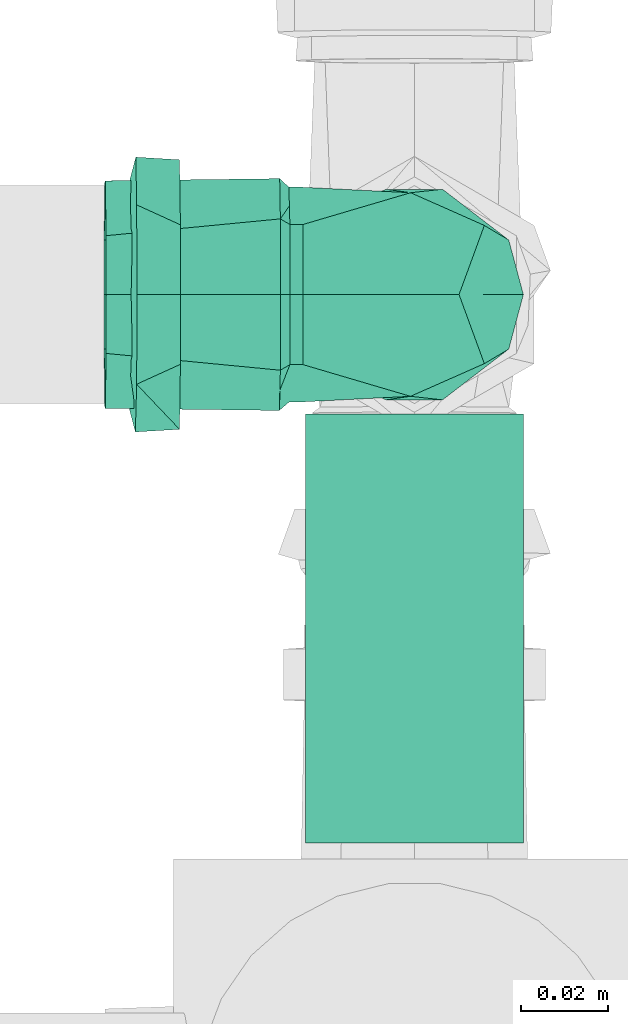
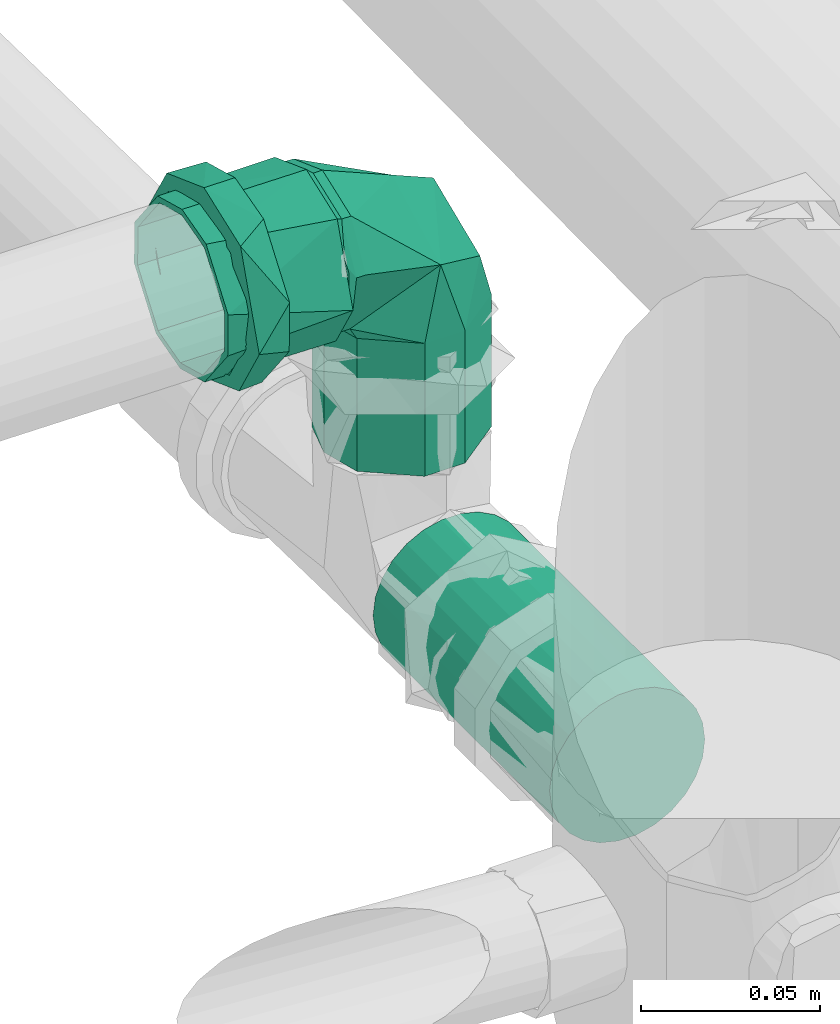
# One storey, part 214 of 589: 1 flow fitting, 1 flow segment.
"""IFC2X3 building model written with IfcOpenShell, lengths in millimetres."""

import ifcopenshell
import ifcopenshell.guid

model = None  # the IFC model being written
_history = None  # IfcOwnerHistory: only IFC2X3 demands one
_inside = {}  # id of a spatial element -> (the spatial element, [elements in it])
_under = {}  # id of a project, library or spatial element -> (it, [spatial elements below it])
_declared = {}  # id of a project -> (the project, [libraries it declares])
_typed = {}  # id of a type object -> (the type object, [elements of that type])
_made_of = {}  # id of a material, layer set ... -> (it, [elements and type objects made of it])


def new_model(schema):
    """Start an empty IFC model of exactly this schema.

    Asked for "IFC4X3", IfcOpenShell would pick the latest addendum, in which some entities
    have other attributes; the version numbers below select the first issue.
    IFC2X3 requires an IfcOwnerHistory on every rooted entity: one is made here for all.
    """
    global model, _history
    if schema == "IFC4X3":
        model = ifcopenshell.file(schema_version=(4, 3, 0, 0))
    else:
        model = ifcopenshell.file(schema=schema)
    _inside.clear()
    _under.clear()
    _declared.clear()
    _typed.clear()
    _made_of.clear()
    _history = None
    if model.schema == "IFC2X3":
        org = make("IfcOrganization", Name="unknown")
        user = make(
            "IfcPersonAndOrganization",
            ThePerson=make("IfcPerson", FamilyName="unknown"),
            TheOrganization=org,
        )
        app = make(
            "IfcApplication",
            ApplicationDeveloper=org,
            Version="unknown",
            ApplicationFullName="unknown",
            ApplicationIdentifier="unknown",
        )
        _history = make(
            "IfcOwnerHistory",
            OwningUser=user,
            OwningApplication=app,
            ChangeAction="ADDED",
            CreationDate=0,
        )
    return model


def make(cls, **values):
    """One entity of the class cls with the attributes given. An attribute that is None is left unset."""
    return model.create_entity(
        cls, **{name: value for name, value in values.items() if value is not None}
    )


def entity(cls, *values):
    """Any entity or typed value of the class cls, its attributes in the order of the schema. None: left unset."""
    e = model.create_entity(cls)
    for i, value in enumerate(values):
        if value is not None:
            e[i] = value
    return e


def rooted(cls, **values):
    """An entity with a GlobalId (a new one), such as an element, a storey or a relation."""
    return make(cls, GlobalId=ifcopenshell.guid.new(), OwnerHistory=_history, **values)


def si_unit(unit_type, name, prefix=None):
    """IfcSIUnit, for example si_unit("LENGTHUNIT", "METRE", prefix="MILLI")."""
    return make("IfcSIUnit", UnitType=unit_type, Prefix=prefix, Name=name)


def converted_unit(unit_type, name, factor, base, dimensions=None, offset=None):
    """IfcConversionBasedUnit, such as the inch: factor (a typed value) times the base unit."""
    return make(
        "IfcConversionBasedUnit"
        if offset is None
        else "IfcConversionBasedUnitWithOffset",
        ConversionOffset=offset,
        Dimensions=None
        if dimensions is None
        else entity("IfcDimensionalExponents", *dimensions),
        UnitType=unit_type,
        Name=name,
        ConversionFactor=make(
            "IfcMeasureWithUnit", ValueComponent=factor, UnitComponent=base
        ),
    )


def derived_unit(unit_type, elements):
    """IfcDerivedUnit: a product of units, each with its exponent."""
    return make(
        "IfcDerivedUnit",
        Elements=[
            make("IfcDerivedUnitElement", Unit=unit, Exponent=power)
            for unit, power in elements
        ],
        UnitType=unit_type,
    )


def assignment(units):
    """IfcUnitAssignment: the units of a project."""
    return None if units is None else make("IfcUnitAssignment", Units=units)


def point(xyz):
    """IfcCartesianPoint."""
    return None if xyz is None else make("IfcCartesianPoint", Coordinates=xyz)


def direction(xyz):
    """IfcDirection."""
    return None if xyz is None else make("IfcDirection", DirectionRatios=xyz)


def frame(location, z_axis=None, x_axis=None):
    """IfcAxis2Placement3D, a coordinate frame: its origin and axes. An axis left out is left unset."""
    return make(
        "IfcAxis2Placement3D",
        Location=point(location),
        Axis=direction(z_axis),
        RefDirection=direction(x_axis),
    )


def frame_2d(location, x_axis=None):
    """IfcAxis2Placement2D, a coordinate frame in the plane: its origin and x axis."""
    return make(
        "IfcAxis2Placement2D", Location=point(location), RefDirection=direction(x_axis)
    )


def origin():
    """The frame at (0, 0, 0) with its axes left unset."""
    return frame((0.0, 0.0, 0.0))


def place(relative_to, where):
    """IfcLocalPlacement: puts the frame where relative to a parent placement (None: the world)."""
    return make(
        "IfcLocalPlacement", PlacementRelTo=relative_to, RelativePlacement=where
    )


def context(
    kind, dimensions, precision=None, world=None, true_north=None, identifier=None
):
    """IfcGeometricRepresentationContext, for example the 3D "Model" context."""
    return make(
        "IfcGeometricRepresentationContext",
        ContextIdentifier=identifier,
        ContextType=kind,
        CoordinateSpaceDimension=dimensions,
        Precision=precision,
        WorldCoordinateSystem=world,
        TrueNorth=true_north,
    )


def subcontext(parent, identifier, kind, view, scale=None):
    """IfcGeometricRepresentationSubContext, for example "Body" below "Model"."""
    return make(
        "IfcGeometricRepresentationSubContext",
        ContextIdentifier=identifier,
        ContextType=kind,
        ParentContext=parent,
        TargetScale=scale,
        TargetView=view,
    )


def project(units=None, contexts=None):
    """IfcProject with its units and contexts."""
    return rooted(
        "IfcProject",
        Name="project",
        RepresentationContexts=contexts,
        UnitsInContext=assignment(units),
    )


def spatial(cls, under=None, at=None, **own):
    """A site, building, storey or space (cls), placed at a placement, below another one or the project."""
    s = rooted(cls, ObjectPlacement=at, **own)
    if under is not None:
        _under.setdefault(under.id(), (under, []))[1].append(s)
    return s


def profile(cls, at=None, kind="AREA", **sizes):
    """A parametric profile (cls). Its sizes go by their IFC names, for example OverallWidth=200.0."""
    return make(cls, ProfileType=kind, Position=at, **sizes)


def circle(**sizes):
    """IfcCircleProfileDef."""
    return profile("IfcCircleProfileDef", **sizes)


def extrude(swept, where, along, depth):
    """IfcExtrudedAreaSolid: the profile swept, set in the frame where, extruded along a direction by depth."""
    return make(
        "IfcExtrudedAreaSolid",
        SweptArea=swept,
        Position=where,
        ExtrudedDirection=direction(along),
        Depth=depth,
    )


def faces_of(points, faces, orient=None, outer=None):
    """IfcFace entities. A face is a list of loops; a loop is a list of indices into points, from 0.

    orient and outer hold one flag for each loop. By default every Orientation is true, the
    first loop of a face is its IfcFaceOuterBound and the others are IfcFaceBound.
    """
    made = []
    for i, loops in enumerate(faces):
        bounds = []
        for j, loop in enumerate(loops):
            is_outer = j == 0 if outer is None else outer[i][j]
            bounds.append(
                make(
                    "IfcFaceOuterBound" if is_outer else "IfcFaceBound",
                    Bound=make("IfcPolyLoop", Polygon=[points[k] for k in loop]),
                    Orientation=True if orient is None else orient[i][j],
                )
            )
        made.append(make("IfcFace", Bounds=bounds))
    return made


def faceted_brep(points, faces, orient=None, outer=None, voids=None):
    """IfcFacetedBrep: a solid bounded by flat faces; with voids (closed shells), ...WithVoids."""
    shared = [point(p) for p in points]
    hull = make("IfcClosedShell", CfsFaces=faces_of(shared, faces, orient, outer))
    if voids is None:
        return make("IfcFacetedBrep", Outer=hull)
    return make(
        "IfcFacetedBrepWithVoids",
        Outer=hull,
        Voids=[
            make(cls, CfsFaces=faces_of(shared, fs, o, b)) for cls, fs, o, b in voids
        ],
    )


def shape(context_of_items, identifier, shape_type, items):
    """IfcShapeRepresentation: the items that make up one representation, for example the "Body"."""
    return make(
        "IfcShapeRepresentation",
        ContextOfItems=context_of_items,
        RepresentationIdentifier=identifier,
        RepresentationType=shape_type,
        Items=items,
    )


def source(mapping_origin, context_of_items, identifier, shape_type, items):
    """IfcRepresentationMap: a shape defined once, which mapped items show again and again."""
    return make(
        "IfcRepresentationMap",
        MappingOrigin=mapping_origin,
        MappedRepresentation=shape(context_of_items, identifier, shape_type, items),
    )


def transform(
    local_origin,
    x_axis=None,
    y_axis=None,
    z_axis=None,
    scale=None,
    scale2=None,
    scale3=None,
    uniform=True,
):
    """IfcCartesianTransformationOperator3D, or its non-uniform kind. x_axis, y_axis, z_axis: its Axis1, 2, 3."""
    if uniform:
        return make(
            "IfcCartesianTransformationOperator3D",
            Axis1=direction(x_axis),
            Axis2=direction(y_axis),
            LocalOrigin=point(local_origin),
            Scale=scale,
            Axis3=direction(z_axis),
        )
    return make(
        "IfcCartesianTransformationOperator3DnonUniform",
        Axis1=direction(x_axis),
        Axis2=direction(y_axis),
        LocalOrigin=point(local_origin),
        Scale=scale,
        Axis3=direction(z_axis),
        Scale2=scale2,
        Scale3=scale3,
    )


def mapped(mapping_source, mapping_target):
    """IfcMappedItem: shows the shape of a source again, moved by a transform."""
    return make(
        "IfcMappedItem", MappingSource=mapping_source, MappingTarget=mapping_target
    )


def material(Name=None, Category=None):
    """IfcMaterial."""
    return make("IfcMaterial", Name=Name, Category=Category)


def made_of(thing, what):
    """Note that an element or type object is made of a material, layer set ...; save() writes the relation."""
    if what is not None:
        _made_of.setdefault(what.id(), (what, []))[1].append(thing)
    return thing


def type_object(cls, material=None, **own):
    """A type object (cls), such as IfcWallType, which elements share."""
    return made_of(rooted(cls, **own), material)


def type_shapes(of_type, sources):
    """Give a type object the sources (RepresentationMaps) that its elements show as mapped items."""
    of_type.RepresentationMaps = sources


def element(
    cls,
    number,
    at=None,
    inside=None,
    cuts=None,
    type_object=None,
    material=None,
    context=None,
    identifier="Body",
    shape_type=None,
    held_by="IfcProductDefinitionShape",
    body=None,
    shapes=None,
    **own,
):
    """One element of the class cls, such as IfcWall. Its Tag is "e" and its number.

    at: its placement. inside: the storey or other place that contains it. cuts: it is an
    opening in that element (IfcRelVoidsElement). A single representation is given by context,
    identifier, shape_type and body (its items); several are given by shapes. held_by: the class
    of the entity that holds the representations. save() writes the other relations.
    """
    e = rooted(cls, Tag="e%d" % number, ObjectPlacement=at, **own)
    if body is not None:
        shapes = [shape(context, identifier, shape_type, body)]
    if shapes is not None:
        e.Representation = make(held_by, Representations=shapes)
    if inside is not None:
        _inside.setdefault(inside.id(), (inside, []))[1].append(e)
    if cuts is not None:
        rooted(
            "IfcRelVoidsElement", RelatingBuildingElement=cuts, RelatedOpeningElement=e
        )
    if type_object is not None:
        _typed.setdefault(type_object.id(), (type_object, []))[1].append(e)
    return made_of(e, material)


def aggregate(whole, parts):
    """IfcRelAggregates: a whole, such as a stair, and the parts it consists of."""
    return rooted("IfcRelAggregates", RelatingObject=whole, RelatedObjects=parts)


def save(model, path):
    """Write the relations noted so far, then the file.

    IfcRelAggregates (storeys below a building ...), IfcRelContainedInSpatialStructure (elements
    in a storey), IfcRelDefinesByType, IfcRelAssociatesMaterial and IfcRelDeclares: one each for
    every whole, place, type object, material and project.
    """
    for whole, parts in _under.values():
        aggregate(whole, parts)
    for where, things in _inside.values():
        rooted(
            "IfcRelContainedInSpatialStructure",
            RelatedElements=things,
            RelatingStructure=where,
        )
    for kind, things in _typed.values():
        rooted("IfcRelDefinesByType", RelatedObjects=things, RelatingType=kind)
    for what, things in _made_of.values():
        rooted("IfcRelAssociatesMaterial", RelatedObjects=things, RelatingMaterial=what)
    for by, libraries in _declared.values():
        rooted("IfcRelDeclares", RelatingContext=by, RelatedDefinitions=libraries)
    model.write(path)


model = new_model("IFC2X3")

# Units and contexts
model_context = context("Model", 3, precision=0.01, world=origin(), true_north=direction((6.123031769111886e-17, 1.0)))
body_context = subcontext(model_context, "Body", "Model", "MODEL_VIEW")
ifc_project = project(units=[si_unit("LENGTHUNIT", "METRE", prefix="MILLI"), si_unit("AREAUNIT", "SQUARE_METRE"), si_unit("VOLUMEUNIT", "CUBIC_METRE"), converted_unit("PLANEANGLEUNIT", "DEGREE", entity("IfcRatioMeasure", 0.017453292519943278), si_unit("PLANEANGLEUNIT", "RADIAN"), dimensions=[0, 0, 0, 0, 0, 0, 0]), si_unit("MASSUNIT", "GRAM", prefix="KILO"), derived_unit("MASSDENSITYUNIT", [(si_unit("MASSUNIT", "GRAM", prefix="KILO"), 1), (si_unit("LENGTHUNIT", "METRE"), -3)]), derived_unit("IONCONCENTRATIONUNIT", [(si_unit("MASSUNIT", "GRAM", prefix="KILO"), 1), (si_unit("LENGTHUNIT", "METRE"), -3)]), derived_unit("MOMENTOFINERTIAUNIT", [(si_unit("LENGTHUNIT", "METRE"), 4)]), si_unit("TIMEUNIT", "SECOND"), si_unit("FREQUENCYUNIT", "HERTZ"), si_unit("THERMODYNAMICTEMPERATUREUNIT", "DEGREE_CELSIUS"), derived_unit("THERMALTRANSMITTANCEUNIT", [(si_unit("MASSUNIT", "GRAM", prefix="KILO"), 1), (si_unit("THERMODYNAMICTEMPERATUREUNIT", "KELVIN"), -1), (si_unit("TIMEUNIT", "SECOND"), -3)]), derived_unit("THERMALCONDUCTANCEUNIT", [(si_unit("MASSUNIT", "GRAM", prefix="KILO"), 1), (si_unit("THERMODYNAMICTEMPERATUREUNIT", "KELVIN"), -1), (si_unit("TIMEUNIT", "SECOND"), -3), (si_unit("LENGTHUNIT", "METRE"), 1)]), derived_unit("VOLUMETRICFLOWRATEUNIT", [(si_unit("LENGTHUNIT", "METRE"), 3), (si_unit("TIMEUNIT", "SECOND"), -1)]), derived_unit("MASSFLOWRATEUNIT", [(si_unit("MASSUNIT", "GRAM", prefix="KILO"), 1), (si_unit("TIMEUNIT", "SECOND"), -1)]), derived_unit("ROTATIONALFREQUENCYUNIT", [(si_unit("TIMEUNIT", "SECOND"), -1)]), si_unit("ELECTRICCURRENTUNIT", "AMPERE"), si_unit("ELECTRICVOLTAGEUNIT", "VOLT"), si_unit("POWERUNIT", "WATT"), si_unit("FORCEUNIT", "NEWTON", prefix="KILO"), si_unit("ILLUMINANCEUNIT", "LUX"), si_unit("LUMINOUSFLUXUNIT", "LUMEN"), si_unit("LUMINOUSINTENSITYUNIT", "CANDELA"), derived_unit("USERDEFINED", [(si_unit("MASSUNIT", "GRAM", prefix="KILO"), -1), (si_unit("LENGTHUNIT", "METRE"), -2), (si_unit("TIMEUNIT", "SECOND"), 3), (si_unit("LUMINOUSFLUXUNIT", "LUMEN"), 1)]), derived_unit("USERDEFINED", [(si_unit("MASSUNIT", "GRAM", prefix="KILO"), 1), (si_unit("TIMEUNIT", "SECOND"), -3), (si_unit("LENGTHUNIT", "METRE"), 3), (si_unit("ELECTRICCURRENTUNIT", "AMPERE"), -2)]), derived_unit("SOUNDPOWERUNIT", [(si_unit("MASSUNIT", "GRAM", prefix="KILO"), 1), (si_unit("TIMEUNIT", "SECOND"), -3), (si_unit("LENGTHUNIT", "METRE"), 2)]), derived_unit("SOUNDPRESSUREUNIT", [(si_unit("MASSUNIT", "GRAM", prefix="KILO"), 1), (si_unit("LENGTHUNIT", "METRE"), -1), (si_unit("TIMEUNIT", "SECOND"), -2)]), derived_unit("LINEARVELOCITYUNIT", [(si_unit("LENGTHUNIT", "METRE"), 1), (si_unit("TIMEUNIT", "SECOND"), -1)]), si_unit("PRESSUREUNIT", "PASCAL"), derived_unit("USERDEFINED", [(si_unit("MASSUNIT", "GRAM", prefix="KILO"), 1), (si_unit("LENGTHUNIT", "METRE"), -2), (si_unit("TIMEUNIT", "SECOND"), -2)]), derived_unit("LINEARFORCEUNIT", [(si_unit("MASSUNIT", "GRAM", prefix="KILO"), 1), (si_unit("TIMEUNIT", "SECOND"), -2)]), derived_unit("PLANARFORCEUNIT", [(si_unit("MASSUNIT", "GRAM", prefix="KILO"), 1), (si_unit("LENGTHUNIT", "METRE"), -1), (si_unit("TIMEUNIT", "SECOND"), -2)]), derived_unit("SPECIFICHEATCAPACITYUNIT", [(si_unit("THERMODYNAMICTEMPERATUREUNIT", "KELVIN"), -1), (si_unit("LENGTHUNIT", "METRE"), 2), (si_unit("TIMEUNIT", "SECOND"), -2)]), derived_unit("HEATINGVALUEUNIT", [(si_unit("LENGTHUNIT", "METRE"), 2), (si_unit("TIMEUNIT", "SECOND"), -2)]), derived_unit("VAPORPERMEABILITYUNIT", [(si_unit("LENGTHUNIT", "METRE"), -1), (si_unit("TIMEUNIT", "SECOND"), 1)]), derived_unit("DYNAMICVISCOSITYUNIT", [(si_unit("MASSUNIT", "GRAM", prefix="KILO"), 1), (si_unit("TIMEUNIT", "SECOND"), -1), (si_unit("LENGTHUNIT", "METRE"), -1)]), derived_unit("THERMALEXPANSIONCOEFFICIENTUNIT", [(si_unit("THERMODYNAMICTEMPERATUREUNIT", "KELVIN"), -1)]), derived_unit("MODULUSOFELASTICITYUNIT", [(si_unit("MASSUNIT", "GRAM", prefix="KILO"), 1), (si_unit("LENGTHUNIT", "METRE"), -1), (si_unit("TIMEUNIT", "SECOND"), -2)]), derived_unit("ISOTHERMALMOISTURECAPACITYUNIT", [(si_unit("LENGTHUNIT", "METRE"), 3), (si_unit("MASSUNIT", "GRAM", prefix="KILO"), -1)]), derived_unit("MOISTUREDIFFUSIVITYUNIT", [(si_unit("TIMEUNIT", "SECOND"), -1), (si_unit("LENGTHUNIT", "METRE"), 2)])], contexts=[model_context])

# Site, building, storey
site_placement = place(None, origin())
site = spatial("IfcSite", under=ifc_project, at=site_placement, Name="Default", CompositionType="ELEMENT")
building_placement = place(site_placement, origin())
building = spatial("IfcBuilding", under=site, at=building_placement, CompositionType="ELEMENT")
storey_placement = place(building_placement, frame((0.0, 0.0, 100.0)))
storey = spatial("IfcBuildingStorey", under=building, at=storey_placement, Name="TÉRREO", CompositionType="ELEMENT", Elevation=100.0)

# Flow segment
pipe_segment_type = type_object("IfcPipeSegmentType", Name="Tipos de tubos:PVC Esgoto Série Normal", PredefinedType="NOTDEFINED")
flow_segment_placement = place(storey_placement, origin())
element("IfcFlowSegment", 1, at=flow_segment_placement, inside=storey, type_object=pipe_segment_type, Name="Tipos de tubos:PVC Esgoto Série Normal", ObjectType="Tipos de tubos:PVC Esgoto Série Normal", context=body_context, shape_type="SweptSolid", body=[
    extrude(circle(Radius=25.0, at=frame_2d((0.0, -1.6919798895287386e-14), x_axis=(1.0, 0.0))), frame((10412.795167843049, 1231.3181290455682, -188.50286149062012), z_axis=(0.0, 1.0, 0.0), x_axis=(1.0, 0.0, 0.0)), (0.0, 0.0, 1.0), 98.35659763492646),
])

# Flow fitting
ifc_material = material(Name="PVC Série Normal")
pipe_fitting_type = type_object("IfcPipeFittingType", Name="PVC Esgoto_Joelho 45_90_Rodrigo MEP:a. Série Normal", PredefinedType="NOTDEFINED", material=ifc_material)
shared_shape = source(origin(), body_context, "Body", "Brep", [
    faceted_brep([(-70.94129996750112, -21.650635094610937, -12.500000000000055), (-70.94129996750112, -25.0, 0.0), (-70.94129996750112, -21.650635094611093, 12.499999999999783), (-70.94129996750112, -6.470476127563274, 24.148145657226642), (-70.94129996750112, 6.470476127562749, 24.14814565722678), (-70.94129996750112, 21.650635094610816, 12.500000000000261), (-70.94129996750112, 25.0, 0.0), (-70.94129996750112, 21.650635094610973, -12.499999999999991), (-70.94129996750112, 6.4704761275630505, -24.1481456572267), (-70.94129996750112, -6.4704761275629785, -24.14814565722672), (-25.74129996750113, 6.4704761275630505, -24.1481456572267), (-25.74129996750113, 21.650635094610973, -12.499999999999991), (-25.74129996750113, 25.0, 0.0), (-25.74129996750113, 21.650635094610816, 12.500000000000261), (-25.74129996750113, 6.470476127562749, 24.14814565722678), (-25.74129996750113, -6.470476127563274, 24.148145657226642), (-25.74129996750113, -21.650635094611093, 12.499999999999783), (-25.74129996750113, -25.0, 0.0), (-25.74129996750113, -21.650635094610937, -12.500000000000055), (-25.74129996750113, -6.4704761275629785, -24.14814565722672)], [[[0, 1, 2, 3, 4, 5, 6, 7, 8, 9]], [[10, 11, 12, 13, 14, 15, 16, 17, 18, 19]], [[1, 17, 16, 2]], [[2, 16, 15, 3]], [[15, 14, 4, 3]], [[4, 14, 13, 5]], [[5, 13, 12, 6]], [[6, 12, 11, 7]], [[7, 11, 10, 8]], [[10, 19, 9, 8]], [[9, 19, 18, 0]], [[0, 18, 17, 1]]]),
    faceted_brep([(7.527150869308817, 53.86872545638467, -26.079997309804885), (-6.448378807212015, 54.008480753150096, -26.079997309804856), (-7.742409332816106, 54.02142105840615, -30.90962644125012), (8.8211813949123, 53.85578515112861, -30.90962644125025), (23.920902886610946, 53.70478793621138, -13.500000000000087), (-27.172041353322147, 54.215717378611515, -16.0), (-22.842130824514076, 54.172418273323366, -13.499999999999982), (-26.459264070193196, 54.20858960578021, 0.0), (-31.45901408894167, 54.25858710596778, 0.0), (-22.842130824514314, 54.172418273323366, 13.499999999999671), (-27.17204135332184, 54.21571737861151, 16.0), (-6.448378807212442, 54.008480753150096, 26.079997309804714), (-7.742409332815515, 54.02142105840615, 30.909626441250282), (7.527150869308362, 53.86872545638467, 26.07999730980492), (8.821181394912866, 53.8557851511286, 30.909626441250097), (23.92090288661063, 53.70478793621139, 13.500000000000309), (28.250813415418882, 53.66148883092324, 16.0), (32.53778615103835, 53.618619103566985, 0.0), (27.538036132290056, 53.66861660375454, 0.0), (28.250813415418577, 53.66148883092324, -16.0), (32.63778115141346, 63.61811914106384, 0.0), (25.150431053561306, 63.692992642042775, 20.570569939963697), (-4.921474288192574, 63.99371169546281, 31.513073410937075), (-23.876827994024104, 64.1832652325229, 20.564420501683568), (-31.359019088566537, 64.25808714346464, 0.0), (-23.876827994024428, 64.1832652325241, -20.564420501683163), (6.192331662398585, 63.88257363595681, -31.51446740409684), (25.150431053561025, 63.692992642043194, -20.57056993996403), (-26.35926906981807, 64.20808964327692, 0.0), (-26.346269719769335, 65.50802464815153, 0.0), (-24.550702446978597, 64.19000397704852, 6.749999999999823), (-22.742135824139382, 64.1719183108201, 13.49999999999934), (-18.643697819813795, 64.1309339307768, 16.644999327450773), (-14.545259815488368, 64.08994955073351, 19.789998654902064), (-10.446821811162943, 64.04896517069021, 22.934997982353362), (-6.34838380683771, 64.00798079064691, 26.07999730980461), (0.63938103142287, 63.938103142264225, 26.07999730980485), (7.627145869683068, 63.86822549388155, 26.079997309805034), (11.725583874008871, 63.82724111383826, 22.934997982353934), (15.824021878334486, 63.78625673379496, 19.789998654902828), (19.922459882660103, 63.74527235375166, 16.64499932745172), (24.020897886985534, 63.70428797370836, 13.500000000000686), (25.82946450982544, 63.686202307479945, 6.750000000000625), (27.65103048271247, 64.96805164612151, 0.0), (27.638031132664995, 63.66811664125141, 0.0), (25.82946450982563, 63.686202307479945, -6.750000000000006), (24.020897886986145, 63.70428797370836, -13.499999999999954), (19.922459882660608, 63.74527235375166, -16.644999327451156), (15.824021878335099, 63.78625673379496, -19.789998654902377), (11.72558387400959, 63.82724111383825, -22.934997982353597), (7.62714586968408, 63.86822549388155, -26.07999730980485), (0.6393810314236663, 63.938103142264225, -26.079997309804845), (-6.348383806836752, 64.0079807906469, -26.079997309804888), (-10.446821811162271, 64.0489651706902, -22.93499798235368), (-14.545259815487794, 64.0899495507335, -19.78999865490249), (-18.64369781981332, 64.1309339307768, -16.644999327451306), (-22.742135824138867, 64.17191831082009, -13.50000000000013), (-24.550702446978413, 64.1900039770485, -6.7500000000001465), (24.494481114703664, 64.99961713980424, 8.675614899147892), (21.337931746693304, 65.03118263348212, 17.3512297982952), (14.995218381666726, 65.09460976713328, 19.661005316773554), (8.652505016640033, 65.15803690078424, 21.970780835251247), (2.3097916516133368, 65.22146403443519, 24.280556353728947), (-4.032921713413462, 65.28489116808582, 26.590331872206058), (-20.02881807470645, 65.44485013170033, 17.356418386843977), (-23.187543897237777, 65.47643738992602, 8.678209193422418), (-12.030869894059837, 65.36487064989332, 21.97337512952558), (-23.187543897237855, 65.47643738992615, -8.678209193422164), (-20.028818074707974, 65.44485013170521, -17.35641838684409), (-13.68552554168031, 65.38141720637, -19.664602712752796), (-7.342233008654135, 65.31798428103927, -21.972787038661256), (-0.998940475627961, 65.25455135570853, -24.280971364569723), (5.344352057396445, 65.1911184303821, -26.589155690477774), (21.3379317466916, 65.03118263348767, -17.35122979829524), (24.494481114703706, 64.9996171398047, -8.675614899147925), (13.34114190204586, 65.11115053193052, -21.970192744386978)], [[[0, 1, 2]], [[2, 3, 0]], [[4, 0, 3]], [[5, 2, 1]], [[1, 6, 5]], [[6, 7, 5]], [[8, 5, 7]], [[8, 7, 9]], [[10, 8, 9]], [[9, 11, 10]], [[11, 12, 10]], [[13, 12, 11]], [[12, 13, 14]], [[13, 15, 14]], [[16, 14, 15]], [[16, 15, 17]], [[17, 15, 18]], [[18, 4, 19]], [[17, 18, 19]], [[3, 19, 4]], [[20, 21, 16]], [[20, 16, 17]], [[16, 21, 14]], [[21, 22, 14]], [[12, 22, 23]], [[10, 23, 24]], [[23, 10, 12]], [[10, 24, 8]], [[22, 12, 14]], [[24, 25, 5]], [[24, 5, 8]], [[5, 25, 2]], [[25, 26, 2]], [[3, 26, 27]], [[19, 27, 20]], [[27, 19, 3]], [[19, 20, 17]], [[26, 3, 2]], [[9, 7, 28, 29, 30, 31]], [[11, 9, 31, 32, 33, 34, 35]], [[11, 35, 36, 37, 13]], [[15, 13, 37, 38, 39, 40, 41]], [[18, 15, 41, 42, 43, 44]], [[4, 18, 44, 43, 45, 46]], [[0, 4, 46, 47, 48, 49, 50]], [[0, 50, 51, 52, 1]], [[6, 1, 52, 53, 54, 55, 56]], [[7, 6, 56, 57, 29, 28]], [[20, 43, 58, 59]], [[59, 21, 20]], [[21, 59, 60, 61, 62, 63]], [[21, 63, 22]], [[23, 64, 65, 29]], [[23, 22, 64]], [[24, 23, 29]], [[22, 63, 66, 64]], [[25, 29, 67, 68]], [[29, 25, 24]], [[25, 68, 26]], [[26, 68, 69, 70, 71, 72]], [[20, 73, 74, 43]], [[27, 72, 75, 73]], [[27, 73, 20]], [[72, 27, 26]], [[41, 40, 39, 59]], [[31, 65, 64]], [[61, 60, 38]], [[38, 60, 39]], [[63, 62, 36]], [[66, 63, 35]], [[32, 31, 64, 33]], [[36, 62, 37]], [[36, 35, 63]], [[38, 37, 61]], [[34, 33, 66, 35]], [[65, 30, 29]], [[42, 58, 43]], [[60, 59, 39]], [[37, 62, 61]], [[58, 41, 59]], [[66, 33, 64]], [[42, 41, 58]], [[65, 31, 30]], [[56, 55, 54, 68]], [[46, 74, 73]], [[70, 69, 53]], [[53, 69, 54]], [[72, 71, 51]], [[75, 72, 50]], [[47, 46, 73, 48]], [[51, 71, 52]], [[51, 50, 72]], [[53, 52, 70]], [[49, 48, 75, 50]], [[74, 45, 43]], [[57, 67, 29]], [[69, 68, 54]], [[52, 71, 70]], [[67, 56, 68]], [[75, 48, 73]], [[57, 56, 67]], [[74, 46, 45]]]),
    faceted_brep([(-21.34015511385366, 31.156248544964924, 12.50000000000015), (-6.160755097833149, 31.004454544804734, 24.14814565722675), (6.77955015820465, 30.875051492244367, 24.148145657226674), (21.958950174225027, 30.723257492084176, 12.499999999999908), (25.308147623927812, 30.68976551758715, 0.0), (21.95895017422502, 30.723257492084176, -12.499999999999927), (6.7795501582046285, 30.875051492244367, -24.148145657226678), (-6.160755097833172, 31.004454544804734, -24.14814565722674), (-21.340155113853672, 31.156248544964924, -12.500000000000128), (-24.689352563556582, 31.18974051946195, 0.0), (25.286148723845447, 28.48987550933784, 0.0), (19.440686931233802, 28.54833012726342, -16.065953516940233), (27.308047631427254, 30.66976651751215, 0.0), (-7.690727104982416, 31.019754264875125, -21.97078083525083), (4.994699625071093, 30.892899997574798, -26.5903318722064), (-4.05084405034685, 28.783245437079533, -24.62067765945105), (20.9905959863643, 30.732941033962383, -17.35641838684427), (-18.86185919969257, 28.931355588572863, -16.070757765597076), (-20.376153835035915, 31.146608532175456, -17.35122979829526), (7.694921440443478, 28.665787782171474, -20.34331558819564), (-24.711351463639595, 28.989850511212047, 0.0), (-26.68925257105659, 31.209739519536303, 0.0), (-18.861859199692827, 28.931355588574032, 16.07075776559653), (-20.376153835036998, 31.146608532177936, 17.35122979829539), (8.30401092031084, 30.859806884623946, 21.97278703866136), (-4.382574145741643, 30.986672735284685, 26.58915569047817), (4.631816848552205, 28.69641882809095, 24.619588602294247), (19.440686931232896, 28.548330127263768, 16.06595351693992), (20.99059598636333, 30.732941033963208, 17.356418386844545), (-7.115021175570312, 28.813887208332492, 20.345173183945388), (-6.278387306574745, 71.00763081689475, -26.0799973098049), (-5.760775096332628, 71.00245469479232, -24.14814565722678), (7.179530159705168, 70.87305164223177, -24.148145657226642), (-22.67213932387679, 71.17156833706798, -13.499999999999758), (7.697142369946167, 70.86787552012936, -26.07999730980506), (-20.9401751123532, 71.15424869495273, -12.500000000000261), (-24.289372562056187, 71.1877406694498, 0.0), (-26.289272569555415, 71.20773966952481, 0.0), (-20.940175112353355, 71.15424869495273, 12.499999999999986), (-22.672139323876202, 71.17156833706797, 13.50000000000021), (-5.760775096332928, 71.00245469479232, 24.1481456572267), (-6.2783873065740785, 71.00763081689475, 26.07999730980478), (7.179530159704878, 70.87305164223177, 24.148145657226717), (7.697142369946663, 70.86787552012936, 26.079997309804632), (22.358930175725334, 70.72125764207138, 12.500000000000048), (24.09089438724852, 70.70393799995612, 13.499999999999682), (27.708027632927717, 70.66776666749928, 0.0), (25.7081276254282, 70.6877656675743, 0.0), (24.09089438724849, 70.70393799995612, -13.500000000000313), (22.358930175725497, 70.72125764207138, -12.499999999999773), (25.256150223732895, 25.49002549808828, 0.0), (19.407503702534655, 25.548511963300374, 16.069749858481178), (4.598234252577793, 25.69660465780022, 24.62022085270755), (-7.1473471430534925, 25.81406047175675, 20.344851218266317), (-18.892928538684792, 25.93151628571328, 16.069481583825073), (-24.74134996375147, 25.990000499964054, 0.0), (-18.89292853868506, 25.93151628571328, -16.06948158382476), (-4.083778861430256, 25.78342478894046, -24.620160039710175), (19.407503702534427, 25.548511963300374, -16.069749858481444), (7.661862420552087, 25.665968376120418, -20.34495494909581), (-25.741299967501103, -21.65063509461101, 12.499999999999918), (-25.741299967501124, -6.470476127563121, 24.148145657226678), (-25.741299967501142, 6.470476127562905, 24.14814565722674), (-25.741299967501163, 21.650635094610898, 12.500000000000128), (-25.74129996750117, 25.0, 0.0), (-25.741299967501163, 21.65063509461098, -12.499999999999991), (-25.741299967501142, 6.470476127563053, -24.1481456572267), (-25.741299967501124, -6.470476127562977, -24.14814565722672), (-25.741299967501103, -21.650635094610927, -12.500000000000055), (-25.741299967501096, -25.0, 0.0), (-8.793857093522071, -16.047881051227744, 15.848255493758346), (-3.2027279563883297, -15.730161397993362, 0.0), (10.140389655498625, -10.242300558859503, 0.0), (-1.424468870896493, 0.8894555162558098, 23.341145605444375), (15.761400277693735, 3.0452732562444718, 0.0), (-25.037737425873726, 25.289366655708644, 0.0), (-8.793856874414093, -16.047880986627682, -15.84825546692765), (-1.5162390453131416, 0.8510028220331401, -23.354961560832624)], [[[0, 1, 2, 3, 4, 5, 6, 7, 8, 9]], [[10, 11, 12]], [[13, 14, 15]], [[16, 12, 11]], [[13, 17, 18]], [[17, 13, 15]], [[16, 19, 14]], [[17, 20, 18]], [[18, 20, 21]], [[19, 16, 11]], [[14, 19, 15]], [[20, 22, 23]], [[24, 25, 26]], [[23, 21, 20]], [[24, 27, 28]], [[27, 24, 26]], [[23, 29, 25]], [[27, 10, 12]], [[28, 27, 12]], [[29, 23, 22]], [[25, 29, 26]], [[30, 31, 32]], [[31, 30, 33]], [[32, 34, 30]], [[33, 35, 31]], [[33, 36, 35]], [[36, 33, 37]], [[38, 36, 37]], [[38, 37, 39]], [[39, 40, 38]], [[39, 41, 40]], [[40, 41, 42]], [[43, 42, 41]], [[43, 44, 42]], [[44, 43, 45]], [[46, 44, 45]], [[47, 44, 46]], [[48, 47, 46]], [[48, 49, 47]], [[49, 48, 34]], [[34, 32, 49]], [[46, 45, 12]], [[45, 28, 12]], [[28, 45, 43]], [[43, 25, 24, 28]], [[23, 41, 39]], [[21, 39, 37]], [[41, 23, 25]], [[23, 39, 21]], [[41, 25, 43]], [[37, 33, 21]], [[33, 18, 21]], [[18, 33, 30]], [[30, 14, 13, 18]], [[16, 34, 48]], [[12, 48, 46]], [[34, 16, 14]], [[16, 48, 12]], [[34, 14, 30]], [[5, 4, 47, 49]], [[6, 5, 49, 32]], [[32, 31, 7, 6]], [[8, 7, 31, 35]], [[9, 8, 35, 36]], [[0, 9, 36, 38]], [[1, 0, 38, 40]], [[40, 42, 2, 1]], [[3, 2, 42, 44]], [[4, 3, 44, 47]], [[10, 27, 50]], [[27, 51, 50]], [[51, 27, 26]], [[51, 26, 52]], [[52, 29, 53]], [[22, 54, 53]], [[22, 20, 54]], [[26, 29, 52]], [[54, 20, 55]], [[29, 22, 53]], [[20, 17, 56]], [[20, 56, 55]], [[56, 17, 57]], [[58, 59, 19]], [[17, 15, 57]], [[15, 59, 57]], [[58, 19, 11]], [[11, 50, 58]], [[50, 11, 10]], [[59, 15, 19]], [[60, 61, 62, 63, 64, 65, 66, 67, 68, 69]], [[70, 60, 71]], [[72, 73, 70]], [[74, 73, 72]], [[73, 61, 70]], [[70, 61, 60]], [[63, 62, 54]], [[64, 63, 75]], [[60, 69, 71]], [[73, 62, 61]], [[73, 74, 51]], [[74, 50, 51]], [[51, 52, 73]], [[75, 63, 55]], [[72, 70, 71]], [[63, 54, 55]], [[54, 62, 73]], [[73, 52, 53, 54]], [[76, 72, 71]], [[76, 68, 67]], [[65, 64, 75]], [[66, 65, 56]], [[71, 69, 68]], [[67, 77, 76]], [[68, 76, 71]], [[56, 77, 66]], [[55, 56, 65]], [[58, 50, 74]], [[77, 56, 57]], [[74, 77, 58]], [[67, 66, 77]], [[72, 77, 74]], [[77, 57, 59, 58]], [[72, 76, 77]], [[65, 75, 55]]]),
])
type_shapes(pipe_fitting_type, [shared_shape])
flow_fitting_placement = place(storey_placement, frame((10412.795167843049, 1357.0692483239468, -78.70945195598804), z_axis=(0.0, -1.0, 0.0), x_axis=(0.0, 0.0, 1.0)))
element("IfcFlowFitting", 2, at=flow_fitting_placement, inside=storey, type_object=pipe_fitting_type, material=ifc_material, Name="PVC Esgoto_Joelho 45_90_Rodrigo MEP:a. Série Normal", ObjectType="PVC Esgoto_Joelho 45_90_Rodrigo MEP:a. Série Normal", context=body_context, shape_type="MappedRepresentation", body=[
    mapped(shared_shape, transform((0.0, 0.0, 0.0), scale=1.0)),
])

save(model, "model.ifc")
